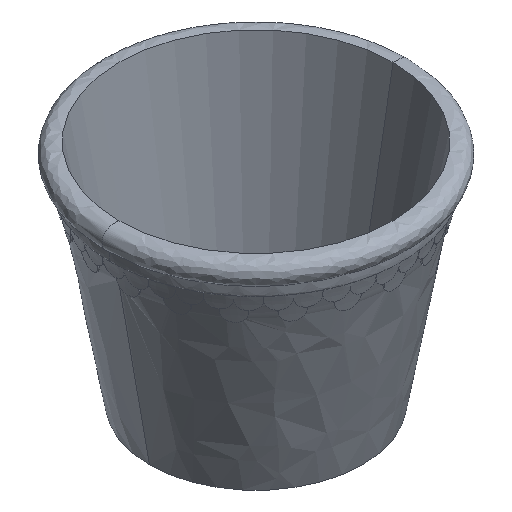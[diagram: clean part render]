
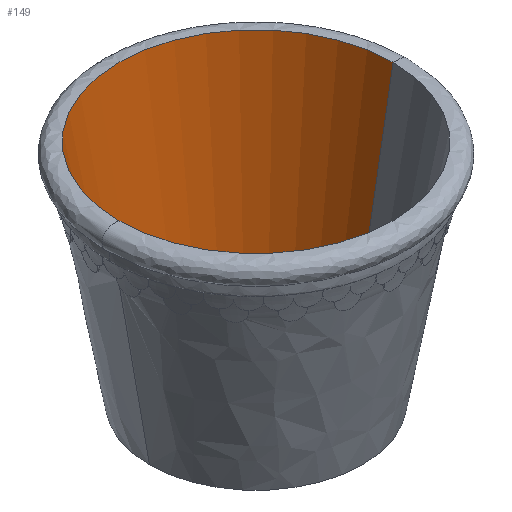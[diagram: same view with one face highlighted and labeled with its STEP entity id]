
A CAD part, isometric view. The second image highlights one B-rep face of the part: STEP entity #149.
In plain terms, the highlighted free-form (B-spline) face has degree [1, 2] with [2, 5] control points.
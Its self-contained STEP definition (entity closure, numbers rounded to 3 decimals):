
#149=ADVANCED_FACE('',(#289),#2399,.T.);
#289=FACE_OUTER_BOUND('',#429,.T.);
#429=EDGE_LOOP('',(#1153,#1154,#1155,#1156));
#1153=ORIENTED_EDGE('',*,*,#1650,.T.);
#1154=ORIENTED_EDGE('',*,*,#1376,.F.);
#1155=ORIENTED_EDGE('',*,*,#1374,.F.);
#1156=ORIENTED_EDGE('',*,*,#1651,.F.);
#1374=EDGE_CURVE('',#2181,#2182,#1856,.T.);
#1376=EDGE_CURVE('',#2182,#2362,#1661,.T.);
#1650=EDGE_CURVE('',#2364,#2362,#2095,.T.);
#1651=EDGE_CURVE('',#2364,#2181,#1690,.T.);
#1661=TRIMMED_CURVE($,#1694,(#50339),(#50340),.T.,.CARTESIAN.);
#1690=TRIMMED_CURVE($,#1723,(#60893),(#60894),.T.,.CARTESIAN.);
#1694=CIRCLE('',#2604,320.442);
#1723=CIRCLE('',#2633,230.551);
#1856=B_SPLINE_CURVE_WITH_KNOTS('',1,(#50333,#50334),.UNSPECIFIED.,.F.,
 .F.,(2,2),(230.534,746.82),.UNSPECIFIED.);
#2095=B_SPLINE_CURVE_WITH_KNOTS('',1,(#60890,#60891),.UNSPECIFIED.,.F.,
 .F.,(2,2),(230.534,746.82),.UNSPECIFIED.);
#2181=VERTEX_POINT('',#42071);
#2182=VERTEX_POINT('',#42072);
#2362=VERTEX_POINT('',#42252);
#2364=VERTEX_POINT('',#42254);
#2399=(
BOUNDED_SURFACE()
B_SPLINE_SURFACE(1,2,((#41927,#41928,#41929,#41930,#41931),(#41932,#41933,
#41934,#41935,#41936)),.UNSPECIFIED.,.F.,.F.,.F.)
B_SPLINE_SURFACE_WITH_KNOTS((2,2),(3,2,3),(230.534,800.768),
(1036.205,1554.308,2072.41),.UNSPECIFIED.)
GEOMETRIC_REPRESENTATION_ITEM()
RATIONAL_B_SPLINE_SURFACE(((1.,0.707,1.,0.707,1.),
(1.,0.707,1.,0.707,1.)))
REPRESENTATION_ITEM('')
SURFACE()
);
#2604=AXIS2_PLACEMENT_3D($,#50338,#2649,#2650);
#2633=AXIS2_PLACEMENT_3D($,#60892,#2707,#2708);
#2649=DIRECTION('',(0.,0.,-1.));
#2650=DIRECTION('',(-1.,0.,0.));
#2707=DIRECTION('',(0.,0.,1.));
#2708=DIRECTION('',(1.,0.,0.));
#41927=CARTESIAN_POINT('',(-459.266,0.,22.));
#41928=CARTESIAN_POINT('',(-459.266,230.551,22.));
#41929=CARTESIAN_POINT('',(-689.818,230.551,22.));
#41930=CARTESIAN_POINT('',(-920.369,230.551,22.));
#41931=CARTESIAN_POINT('',(-920.369,0.,22.));
#41932=CARTESIAN_POINT('',(-359.983,0.,583.082));
#41933=CARTESIAN_POINT('',(-359.983,329.834,583.082));
#41934=CARTESIAN_POINT('',(-689.818,329.834,583.082));
#41935=CARTESIAN_POINT('',(-1019.652,329.834,583.082));
#41936=CARTESIAN_POINT('',(-1019.652,0.,583.082));
#42071=CARTESIAN_POINT('',(-920.369,0.,22.));
#42072=CARTESIAN_POINT('',(-1010.259,0.,530.));
#42252=CARTESIAN_POINT('',(-369.376,0.,530.));
#42254=CARTESIAN_POINT('',(-459.266,0.,22.));
#50333=CARTESIAN_POINT('',(-920.369,0.,22.));
#50334=CARTESIAN_POINT('',(-1010.259,0.,530.));
#50338=CARTESIAN_POINT('',(-689.818,0.,530.));
#50339=CARTESIAN_POINT('',(-1010.259,0.,530.));
#50340=CARTESIAN_POINT('',(-369.376,0.,530.));
#60890=CARTESIAN_POINT('',(-459.266,0.,22.));
#60891=CARTESIAN_POINT('',(-369.376,0.,530.));
#60892=CARTESIAN_POINT('',(-689.818,0.,22.));
#60893=CARTESIAN_POINT('',(-459.266,0.,22.));
#60894=CARTESIAN_POINT('',(-920.369,0.,22.));
